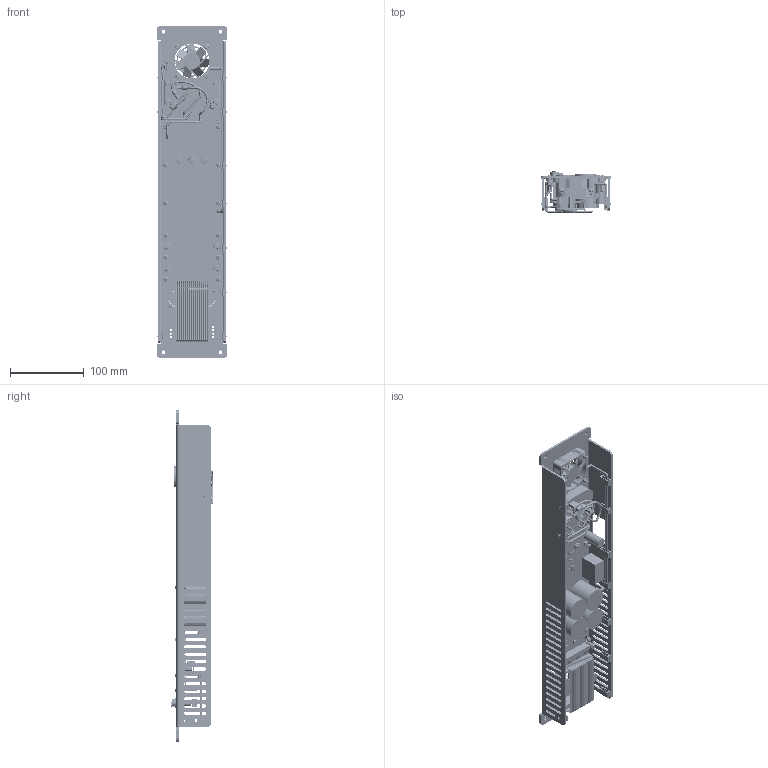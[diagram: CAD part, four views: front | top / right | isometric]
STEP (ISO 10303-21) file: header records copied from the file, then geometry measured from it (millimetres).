
FILE_DESCRIPTION(/* description */ (''),/* implementation_level */ '2;1');
FILE_NAME(/* name */ 'HS000S01.04',/* time_stamp */ '2016-10-24T18:30:58+02:00',/* author */ (''),/* organization */ (''),/* preprocessor_version */ 'ST-DEVELOPER v16.7',/* originating_system */ 'DEX',/* authorisation */ $);
FILE_SCHEMA (('AUTOMOTIVE_DESIGN {1 0 10303 214 3 1 1}'));
Products named in the file (35): HS000S01.04; CN000588; ME001053.00 Rev.02-Serigrafia 2; ME001044.02 Rev.02; VI000050; FS000018; ME001043.02 Rev.02; VI000358; CB000604; VI000022; connettore; VI000004; VI000289; PF000318.12 Litemod; LITEMOD Ingombro Main; DSS00001.01 Rev.02; IS000055.01; ME000841.00; IS000056.00; IS000040.00; VI000057; VI000018; VI000356; CB000601.00_; TO000152.00; VN000035.00; cablaggio 2; VN000022; DSPL0001; SCHEDA DA MP 090415; CB000601.00.00; assieme manopola; ME001046.00.00; cappuccio pulsante; ME001053.00 Rev.02-Serigrafia 1
Assembly tree (79 placements, depth 4):
  HS000S01.04
    CN000588
    ME001053.00 Rev.02-Serigrafia 2
    ME001044.02 Rev.02  x2
    VI000050  x8
    FS000018  x10
    ME001043.02 Rev.02
    VI000358  x2
    CB000604
    VI000022  x4
    connettore
    VI000004  x2
    VI000289  x4
    PF000318.12 Litemod
      LITEMOD Ingombro Main
      DSS00001.01 Rev.02  x7
      IS000055.01
      ME000841.00
      IS000056.00  x2
      IS000040.00
      VI000057  x12
    VI000018  x2
    VI000356  x2
    CB000601.00_
    TO000152.00
    VN000035.00
      cablaggio 2
      VN000022
    DSPL0001
      SCHEDA DA MP 090415
      CB000601.00.00
      assieme manopola
        ME001046.00.00
      cappuccio pulsante
    ME001053.00 Rev.02-Serigrafia 1
Bounding box: 96 x 56.54 x 449 mm (x, y, z)
Volume: 491326.6 mm3; surface area: 363120.5 mm2
Topology: 341 solids, 341 shells, 7811 faces, 17623 edges, 10609 vertices
Faces by surface type: plane 3999, cylinder 1722, bspline 1230, torus 690, cone 153, sphere 17
Full cylindrical faces by diameter (mm): 0.434 x10, 0.7 x18, 1.2 x4, 1.5 x4, 2.459 x16, 2.48 x8, 2.5 x1, 2.8 x5, 2.9 x4, 3 x39, 3.242 x10, 3.307 x2, 3.4 x4, 3.5 x2, 3.8 x8, 4 x13, 4.1 x12, 4.3 x4, 4.5 x6, 5.1 x1, 5.2 x4, 5.5 x6, 6 x19, 6.866 x1, 7 x2, 8 x2, 8.3 x2, 8.831 x1, 9.8 x7, 12.629 x1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
Entity records: 193375 total; most frequent: CARTESIAN_POINT 49131, ORIENTED_EDGE 25128, DIRECTION 24939, EDGE_CURVE 12564, AXIS2_PLACEMENT_3D 9466, VERTEX_POINT 7793, FACE_BOUND 6297, EDGE_LOOP 6292
